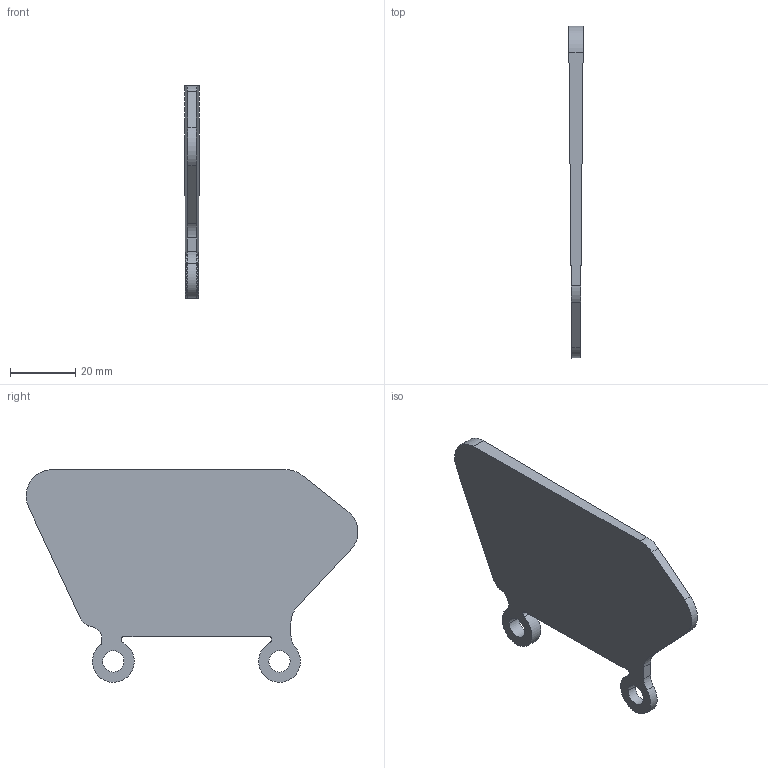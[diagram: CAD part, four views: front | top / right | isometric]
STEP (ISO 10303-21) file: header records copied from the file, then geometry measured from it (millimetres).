
FILE_DESCRIPTION(('CATIA V5 STEP Exchange'),'2;1');
FILE_NAME('C:\Users\ALI OZGUN\Desktop\alhan\868B01P01.stp','2017-08-17T06:04:13+00:00',('none'),('none'),'CATIA Version 5 Release 21 GA (IN-10)','CATIA V5 STEP AP203','none');
FILE_SCHEMA(('CONFIG_CONTROL_DESIGN'));
Length unit declared in the file: millimetre
Products named in the file (1): 868B01P01
Bounding box: 4.5 x 101.49 x 65 mm (x, y, z)
Volume: 15631 mm3; surface area: 10185.1 mm2
Topology: 1 solids, 1 shells, 30 faces, 86 edges, 58 vertices
Faces by surface type: cylinder 18, plane 12
Entity records: 1218 total; most frequent: CARTESIAN_POINT 461, ORIENTED_EDGE 172, DIRECTION 104, EDGE_CURVE 86, VERTEX_POINT 58, VECTOR 48, LINE 48, B_SPLINE_CURVE_WITH_KNOTS 38
